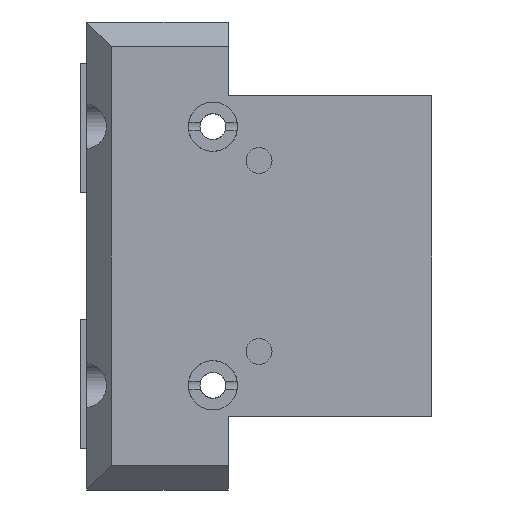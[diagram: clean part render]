
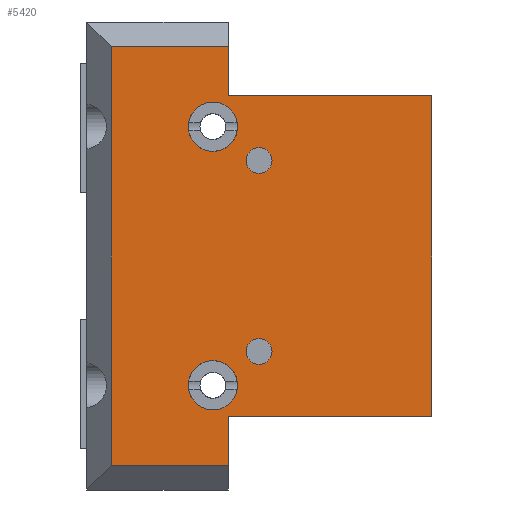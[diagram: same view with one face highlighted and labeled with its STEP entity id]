
A CAD part, left-side view. The second image highlights one B-rep face of the part: STEP entity #5420.
In plain terms, the highlighted planar face has unit normal (-1, 0, 0).
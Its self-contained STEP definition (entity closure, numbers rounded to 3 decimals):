
#1954 = DIRECTION ( 'NONE',  ( 0., -1., 0. ) ) ;
#1955 = DIRECTION ( 'NONE',  ( -1., 0., 0. ) ) ;
#1956 = CARTESIAN_POINT ( 'NONE',  ( -18., 35.5, -21. ) ) ;
#1980 = DIRECTION ( 'NONE',  ( 0., -1., 0. ) ) ;
#1981 = DIRECTION ( 'NONE',  ( -1., 0., 0. ) ) ;
#1982 = CARTESIAN_POINT ( 'NONE',  ( -18., 35.5, 21. ) ) ;
#1985 = CARTESIAN_POINT ( 'NONE',  ( -18., 39.5, 21. ) ) ;
#1987 = CIRCLE ( 'NONE', #1992, 4. ) ;
#1992 = AXIS2_PLACEMENT_3D ( 'NONE', #1982, #1981, #1980 ) ;
#2011 = AXIS2_PLACEMENT_3D ( 'NONE', #1956, #1955, #1954 ) ;
#2016 = CIRCLE ( 'NONE', #2011, 4. ) ;
#2035 = DIRECTION ( 'NONE',  ( 0., -1., 0. ) ) ;
#2036 = DIRECTION ( 'NONE',  ( -1., 0., 0. ) ) ;
#2037 = CARTESIAN_POINT ( 'NONE',  ( -18., 28., 15.5 ) ) ;
#2038 = AXIS2_PLACEMENT_3D ( 'NONE', #2037, #2036, #2035 ) ;
#2039 = CIRCLE ( 'NONE', #2038, 2.1 ) ;
#2047 = CARTESIAN_POINT ( 'NONE',  ( -18., 25.9, 15.5 ) ) ;
#2055 = CARTESIAN_POINT ( 'NONE',  ( -18., 31.5, -21. ) ) ;
#2062 = CARTESIAN_POINT ( 'NONE',  ( -18., 31.5, 21. ) ) ;
#2079 = CARTESIAN_POINT ( 'NONE',  ( -18., 30.1, 15.5 ) ) ;
#2117 = CARTESIAN_POINT ( 'NONE',  ( -18., 39.5, -21. ) ) ;
#2159 = DIRECTION ( 'NONE',  ( 0., -1., 0. ) ) ;
#2160 = DIRECTION ( 'NONE',  ( -1., 0., 0. ) ) ;
#2161 = AXIS2_PLACEMENT_3D ( 'NONE', #2176, #2160, #2159 ) ;
#2162 = CIRCLE ( 'NONE', #2161, 2.1 ) ;
#2167 = CARTESIAN_POINT ( 'NONE',  ( -18., 25.9, -15.5 ) ) ;
#2173 = CARTESIAN_POINT ( 'NONE',  ( -18., 30.1, -15.5 ) ) ;
#2176 = CARTESIAN_POINT ( 'NONE',  ( -18., 28., -15.5 ) ) ;
#2379 = CARTESIAN_POINT ( 'NONE',  ( -18., 0., -26. ) ) ;
#2645 = CARTESIAN_POINT ( 'NONE',  ( -18., 0., 26. ) ) ;
#2866 = DIRECTION ( 'NONE',  ( 0., 0., -1. ) ) ;
#2867 = VECTOR ( 'NONE', #2866, 1000. ) ;
#2868 = CARTESIAN_POINT ( 'NONE',  ( -18., 0., 38. ) ) ;
#2869 = LINE ( 'NONE', #2868, #2867 ) ;
#2932 = DIRECTION ( 'NONE',  ( 0., 0., 1. ) ) ;
#2933 = VECTOR ( 'NONE', #2932, 1000. ) ;
#2935 = CARTESIAN_POINT ( 'NONE',  ( -18., 33., -34. ) ) ;
#2936 = CARTESIAN_POINT ( 'NONE',  ( -18., 33., -26. ) ) ;
#2937 = LINE ( 'NONE', #2936, #2933 ) ;
#2938 = CARTESIAN_POINT ( 'NONE',  ( -18., 28., -15.5 ) ) ;
#2969 = CARTESIAN_POINT ( 'NONE',  ( -18., 93.947, 26. ) ) ;
#2973 = DIRECTION ( 'NONE',  ( 0., -1., 0. ) ) ;
#2974 = VECTOR ( 'NONE', #2973, 1000. ) ;
#2975 = AXIS2_PLACEMENT_3D ( 'NONE', #2938, #3082, #3081 ) ;
#2989 = CIRCLE ( 'NONE', #2975, 2.1 ) ;
#2994 = FACE_OUTER_BOUND ( 'NONE', #5412, .T. ) ;
#2995 = FACE_BOUND ( 'NONE', #5387, .T. ) ;
#2997 = FACE_BOUND ( 'NONE', #5390, .T. ) ;
#2999 = DIRECTION ( 'NONE',  ( 0., 0., -1. ) ) ;
#3000 = VECTOR ( 'NONE', #2999, 1000. ) ;
#3001 = CARTESIAN_POINT ( 'NONE',  ( -18., 52., 38. ) ) ;
#3002 = CARTESIAN_POINT ( 'NONE',  ( -18., 33., 34. ) ) ;
#3004 = LINE ( 'NONE', #3001, #3000 ) ;
#3006 = FACE_BOUND ( 'NONE', #5385, .T. ) ;
#3007 = DIRECTION ( 'NONE',  ( 0., -1., 0. ) ) ;
#3010 = CARTESIAN_POINT ( 'NONE',  ( -18., 35.5, -21. ) ) ;
#3011 = AXIS2_PLACEMENT_3D ( 'NONE', #3010, #3086, #3085 ) ;
#3015 = CARTESIAN_POINT ( 'NONE',  ( -18., 28., 15.5 ) ) ;
#3016 = CARTESIAN_POINT ( 'NONE',  ( -18., 33., 26. ) ) ;
#3018 = CIRCLE ( 'NONE', #3021, 2.1 ) ;
#3021 = AXIS2_PLACEMENT_3D ( 'NONE', #3015, #3080, #3007 ) ;
#3024 = DIRECTION ( 'NONE',  ( 0., 1., 0. ) ) ;
#3025 = DIRECTION ( 'NONE',  ( 1., 0., 0. ) ) ;
#3026 = CARTESIAN_POINT ( 'NONE',  ( -18., 56., 38. ) ) ;
#3027 = AXIS2_PLACEMENT_3D ( 'NONE', #3026, #3025, #3024 ) ;
#3028 = CARTESIAN_POINT ( 'NONE',  ( -18., 35.5, 21. ) ) ;
#3029 = PLANE ( 'NONE',  #3027 ) ;
#3030 = CIRCLE ( 'NONE', #3135, 4. ) ;
#3041 = CIRCLE ( 'NONE', #3011, 4. ) ;
#3071 = DIRECTION ( 'NONE',  ( 0., 1., 0. ) ) ;
#3072 = VECTOR ( 'NONE', #3071, 1000. ) ;
#3073 = CARTESIAN_POINT ( 'NONE',  ( -18., 56., 34. ) ) ;
#3074 = LINE ( 'NONE', #3073, #3072 ) ;
#3080 = DIRECTION ( 'NONE',  ( -1., 0., 0. ) ) ;
#3081 = DIRECTION ( 'NONE',  ( 0., -1., 0. ) ) ;
#3082 = DIRECTION ( 'NONE',  ( -1., 0., 0. ) ) ;
#3085 = DIRECTION ( 'NONE',  ( 0., -1., 0. ) ) ;
#3086 = DIRECTION ( 'NONE',  ( -1., 0., 0. ) ) ;
#3096 = LINE ( 'NONE', #2969, #2974 ) ;
#3112 = DIRECTION ( 'NONE',  ( 0., 0., 1. ) ) ;
#3113 = VECTOR ( 'NONE', #3112, 1000. ) ;
#3114 = CARTESIAN_POINT ( 'NONE',  ( -18., 33., 38. ) ) ;
#3115 = LINE ( 'NONE', #3114, #3113 ) ;
#3133 = DIRECTION ( 'NONE',  ( 0., -1., 0. ) ) ;
#3134 = DIRECTION ( 'NONE',  ( -1., 0., 0. ) ) ;
#3135 = AXIS2_PLACEMENT_3D ( 'NONE', #3028, #3134, #3133 ) ;
#3138 = FACE_BOUND ( 'NONE', #5384, .T. ) ;
#3204 = CARTESIAN_POINT ( 'NONE',  ( -18., 33., -26. ) ) ;
#3385 = LINE ( 'NONE', #3413, #3412 ) ;
#3401 = CARTESIAN_POINT ( 'NONE',  ( -18., 52., -34. ) ) ;
#3411 = DIRECTION ( 'NONE',  ( 0., -1., 0. ) ) ;
#3412 = VECTOR ( 'NONE', #3411, 1000. ) ;
#3413 = CARTESIAN_POINT ( 'NONE',  ( -18., 93.947, -26. ) ) ;
#3424 = CARTESIAN_POINT ( 'NONE',  ( -18., 52., 34. ) ) ;
#3493 = DIRECTION ( 'NONE',  ( 0., -1., 0. ) ) ;
#3494 = VECTOR ( 'NONE', #3493, 1000. ) ;
#3515 = CARTESIAN_POINT ( 'NONE',  ( -18., 56., -34. ) ) ;
#3516 = LINE ( 'NONE', #3515, #3494 ) ;
#4871 = VERTEX_POINT ( 'NONE', #2117 ) ;
#4880 = EDGE_CURVE ( 'NONE', #4871, #4920, #2016, .T. ) ;
#4896 = EDGE_CURVE ( 'NONE', #4905, #4897, #2039, .T. ) ;
#4897 = VERTEX_POINT ( 'NONE', #2047 ) ;
#4905 = VERTEX_POINT ( 'NONE', #2079 ) ;
#4914 = VERTEX_POINT ( 'NONE', #2062 ) ;
#4920 = VERTEX_POINT ( 'NONE', #2055 ) ;
#4940 = EDGE_CURVE ( 'NONE', #4943, #4914, #1987, .T. ) ;
#4943 = VERTEX_POINT ( 'NONE', #1985 ) ;
#4966 = EDGE_CURVE ( 'NONE', #4982, #4990, #2162, .T. ) ;
#4982 = VERTEX_POINT ( 'NONE', #2173 ) ;
#4990 = VERTEX_POINT ( 'NONE', #2167 ) ;
#5090 = VERTEX_POINT ( 'NONE', #2379 ) ;
#5194 = VERTEX_POINT ( 'NONE', #2645 ) ;
#5275 = EDGE_CURVE ( 'NONE', #5194, #5090, #2869, .T. ) ;
#5358 = EDGE_CURVE ( 'NONE', #4920, #4871, #3041, .T. ) ;
#5361 = EDGE_CURVE ( 'NONE', #5408, #5415, #3115, .T. ) ;
#5362 = ORIENTED_EDGE ( 'NONE', *, *, #5275, .F. ) ;
#5366 = ORIENTED_EDGE ( 'NONE', *, *, #5361, .T. ) ;
#5374 = EDGE_CURVE ( 'NONE', #5415, #5582, #3074, .T. ) ;
#5381 = ORIENTED_EDGE ( 'NONE', *, *, #5586, .T. ) ;
#5382 = EDGE_CURVE ( 'NONE', #5383, #5512, #2937, .T. ) ;
#5383 = VERTEX_POINT ( 'NONE', #2935 ) ;
#5384 = EDGE_LOOP ( 'NONE', ( #5389, #5388 ) ) ;
#5385 = EDGE_LOOP ( 'NONE', ( #5411, #5584 ) ) ;
#5387 = EDGE_LOOP ( 'NONE', ( #5393, #5392 ) ) ;
#5388 = ORIENTED_EDGE ( 'NONE', *, *, #4896, .F. ) ;
#5389 = ORIENTED_EDGE ( 'NONE', *, *, #5407, .F. ) ;
#5390 = EDGE_LOOP ( 'NONE', ( #5585, #5391 ) ) ;
#5391 = ORIENTED_EDGE ( 'NONE', *, *, #4940, .F. ) ;
#5392 = ORIENTED_EDGE ( 'NONE', *, *, #4966, .F. ) ;
#5393 = ORIENTED_EDGE ( 'NONE', *, *, #5395, .F. ) ;
#5394 = EDGE_CURVE ( 'NONE', #5408, #5194, #3096, .T. ) ;
#5395 = EDGE_CURVE ( 'NONE', #4990, #4982, #2989, .T. ) ;
#5403 = ORIENTED_EDGE ( 'NONE', *, *, #5596, .T. ) ;
#5404 = ORIENTED_EDGE ( 'NONE', *, *, #5382, .T. ) ;
#5407 = EDGE_CURVE ( 'NONE', #4897, #4905, #3018, .T. ) ;
#5408 = VERTEX_POINT ( 'NONE', #3016 ) ;
#5411 = ORIENTED_EDGE ( 'NONE', *, *, #5358, .F. ) ;
#5412 = EDGE_LOOP ( 'NONE', ( #5594, #5381, #5404, #5403, #5362, #5413, #5366, #5588 ) ) ;
#5413 = ORIENTED_EDGE ( 'NONE', *, *, #5394, .F. ) ;
#5414 = EDGE_CURVE ( 'NONE', #5582, #5593, #3004, .T. ) ;
#5415 = VERTEX_POINT ( 'NONE', #3002 ) ;
#5420 = ADVANCED_FACE ( 'NONE', ( #3006, #2997, #3138, #2995, #2994 ), #3029, .F. ) ;
#5421 = EDGE_CURVE ( 'NONE', #4914, #4943, #3030, .T. ) ;
#5512 = VERTEX_POINT ( 'NONE', #3204 ) ;
#5582 = VERTEX_POINT ( 'NONE', #3424 ) ;
#5584 = ORIENTED_EDGE ( 'NONE', *, *, #4880, .F. ) ;
#5585 = ORIENTED_EDGE ( 'NONE', *, *, #5421, .F. ) ;
#5586 = EDGE_CURVE ( 'NONE', #5593, #5383, #3516, .T. ) ;
#5588 = ORIENTED_EDGE ( 'NONE', *, *, #5374, .T. ) ;
#5593 = VERTEX_POINT ( 'NONE', #3401 ) ;
#5594 = ORIENTED_EDGE ( 'NONE', *, *, #5414, .T. ) ;
#5596 = EDGE_CURVE ( 'NONE', #5512, #5090, #3385, .T. ) ;
